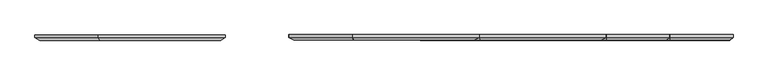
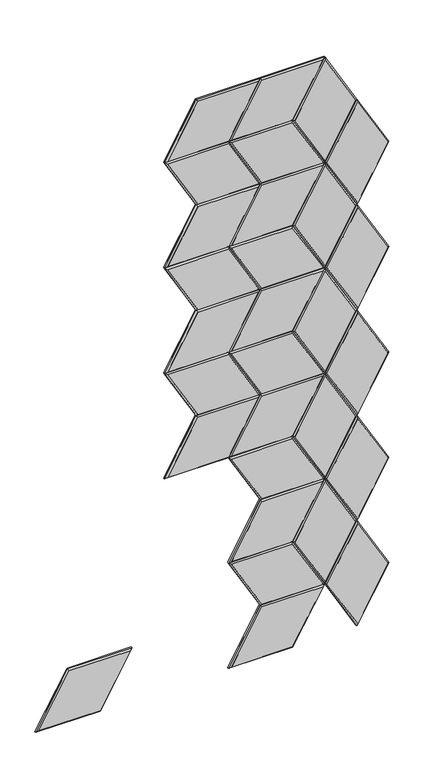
"""IFC4 building model written with IfcOpenShell, lengths in millimetres: proxy geometry, Wall_Cissu 9.3dm."""

from ifc_helpers import new_model, si_unit, origin, place, context, project, spatial, faceted_brep, source, transform, mapped, element, save


def generic_models_f78b7b72(model_context):
    return source(origin(), model_context, "Body", "Brep", [
        faceted_brep([(14916.0518258, 6.0, 1106.2275153), (14636.6518258, 6.0, 1106.2275153), (14776.3518258, 6.0, 1348.1950131), (15055.7518258, 6.0, 1348.1950131), (14916.0518258, 0.0, 1106.2275153), (14636.6518258, 0.0, 1106.2275153), (14776.3518258, 0.0, 1348.1950131), (15055.7518258, 0.0, 1348.1950131), (14779.8159274, -6.0, 1342.1950131), (14647.0441307, -6.0, 1112.2275153), (14912.5877242, -6.0, 1112.2275153), (15045.359521, -6.0, 1342.1950131)], [[[0, 1, 2, 3]], [[4, 5, 1, 0]], [[5, 6, 2, 1]], [[6, 7, 3, 2]], [[7, 4, 0, 3]], [[8, 9, 10, 11]], [[4, 10, 9, 5]], [[5, 9, 8, 6]], [[6, 8, 11, 7]], [[7, 11, 10, 4]]]),
        faceted_brep([(14916.0518258, 6.0, 2074.0975065), (15055.7518258, 6.0, 1832.1300087), (14776.3518258, 6.0, 1832.1300087), (14636.6518258, 6.0, 2074.0975065), (14916.0518258, 0.0, 2074.0975065), (14636.6518258, 0.0, 2074.0975065), (14776.3518258, 0.0, 1832.1300087), (15055.7518258, 0.0, 1832.1300087), (14779.8159274, -6.0, 1838.1300087), (15045.359521, -6.0, 1838.1300087), (14912.5877242, -6.0, 2068.0975065), (14647.0441307, -6.0, 2068.0975065)], [[[0, 1, 2, 3]], [[4, 0, 3, 5]], [[5, 3, 2, 6]], [[6, 2, 1, 7]], [[7, 1, 0, 4]], [[8, 9, 10, 11]], [[4, 5, 11, 10]], [[5, 6, 8, 11]], [[6, 7, 9, 8]], [[7, 4, 10, 9]]]),
        faceted_brep([(14916.0518258, 6.0, 1590.1625109), (14636.6518258, 6.0, 1590.1625109), (14776.3518258, 6.0, 1832.1300087), (15055.7518258, 6.0, 1832.1300087), (14916.0518258, 0.0, 1590.1625109), (14636.6518258, 0.0, 1590.1625109), (14776.3518258, 0.0, 1832.1300087), (15055.7518258, 0.0, 1832.1300087), (14779.8159274, -6.0, 1826.1300087), (14647.0441307, -6.0, 1596.1625109), (14912.5877242, -6.0, 1596.1625109), (15045.359521, -6.0, 1826.1300087)], [[[0, 1, 2, 3]], [[4, 5, 1, 0]], [[5, 6, 2, 1]], [[6, 7, 3, 2]], [[7, 4, 0, 3]], [[8, 9, 10, 11]], [[4, 10, 9, 5]], [[5, 9, 8, 6]], [[6, 8, 11, 7]], [[7, 11, 10, 4]]]),
        faceted_brep([(14916.0518258, 6.0, 2558.0325022), (15055.7518258, 6.0, 2316.0650044), (14776.3518258, 6.0, 2316.0650044), (14636.6518258, 6.0, 2558.0325022), (14916.0518258, 0.0, 2558.0325022), (14636.6518258, 0.0, 2558.0325022), (14776.3518258, 0.0, 2316.0650044), (15055.7518258, 0.0, 2316.0650044), (14779.8159274, -6.0, 2322.0650044), (15045.359521, -6.0, 2322.0650044), (14912.5877242, -6.0, 2552.0325022), (14647.0441307, -6.0, 2552.0325022)], [[[0, 1, 2, 3]], [[4, 0, 3, 5]], [[5, 3, 2, 6]], [[6, 2, 1, 7]], [[7, 1, 0, 4]], [[8, 9, 10, 11]], [[4, 5, 11, 10]], [[5, 6, 8, 11]], [[6, 7, 9, 8]], [[7, 4, 10, 9]]]),
        faceted_brep([(14916.0518258, 6.0, 2074.0975065), (14636.6518258, 6.0, 2074.0975065), (14776.3518258, 6.0, 2316.0650044), (15055.7518258, 6.0, 2316.0650044), (14916.0518258, 0.0, 2074.0975065), (14636.6518258, 0.0, 2074.0975065), (14776.3518258, 0.0, 2316.0650044), (15055.7518258, 0.0, 2316.0650044), (14779.8159274, -6.0, 2310.0650044), (14647.0441307, -6.0, 2080.0975065), (14912.5877242, -6.0, 2080.0975065), (15045.359521, -6.0, 2310.0650044)], [[[0, 1, 2, 3]], [[4, 5, 1, 0]], [[5, 6, 2, 1]], [[6, 7, 3, 2]], [[7, 4, 0, 3]], [[8, 9, 10, 11]], [[4, 10, 9, 5]], [[5, 9, 8, 6]], [[6, 8, 11, 7]], [[7, 11, 10, 4]]]),
        faceted_brep([(14776.3518258, 6.0, 1348.1950131), (14636.6518258, 6.0, 1590.1625109), (14916.0518258, 6.0, 1590.1625109), (15055.7518258, 6.0, 1348.1950131), (14776.3518258, 0.0, 1348.1950131), (15055.7518258, 0.0, 1348.1950131), (14916.0518258, 0.0, 1590.1625109), (14636.6518258, 0.0, 1590.1625109), (14912.5877242, -6.0, 1584.1625109), (14647.0441307, -6.0, 1584.1625109), (14779.8159274, -6.0, 1354.1950131), (15045.359521, -6.0, 1354.1950131)], [[[0, 1, 2, 3]], [[4, 0, 3, 5]], [[5, 3, 2, 6]], [[6, 2, 1, 7]], [[7, 1, 0, 4]], [[8, 9, 10, 11]], [[4, 5, 11, 10]], [[5, 6, 8, 11]], [[6, 7, 9, 8]], [[7, 4, 10, 9]]]),
        faceted_brep([(14217.5518258, 6.0, 380.3250218), (14496.9518258, 6.0, 380.3250218), (14357.2518258, 6.0, 138.357524), (14077.8518258, 6.0, 138.357524), (14217.5518258, 0.0, 380.3250218), (14496.9518258, 0.0, 380.3250218), (14357.2518258, 0.0, 138.357524), (14077.8518258, 0.0, 138.357524), (14353.7877242, -6.0, 144.357524), (14486.559521, -6.0, 374.3250218), (14221.0159274, -6.0, 374.3250218), (14088.2441307, -6.0, 144.357524)], [[[0, 1, 2, 3]], [[4, 5, 1, 0]], [[5, 6, 2, 1]], [[6, 7, 3, 2]], [[7, 4, 0, 3]], [[8, 9, 10, 11]], [[4, 10, 9, 5]], [[5, 9, 8, 6]], [[6, 8, 11, 7]], [[7, 11, 10, 4]]]),
        faceted_brep([(14916.0518258, 6.0, 2558.0325022), (14636.6518258, 6.0, 2558.0325022), (14776.3518258, 6.0, 2800.0), (15055.7518258, 6.0, 2800.0), (14916.0518258, 0.0, 2558.0325022), (14636.6518258, 0.0, 2558.0325022), (14776.3518258, 0.0, 2800.0), (15055.7518258, 0.0, 2800.0), (14779.8159274, -6.0, 2794.0), (14647.0441307, -6.0, 2564.0325022), (14912.5877242, -6.0, 2564.0325022), (15045.359521, -6.0, 2794.0)], [[[0, 1, 2, 3]], [[4, 5, 1, 0]], [[5, 6, 2, 1]], [[6, 7, 3, 2]], [[7, 4, 0, 3]], [[8, 9, 10, 11]], [[4, 10, 9, 5]], [[5, 9, 8, 6]], [[6, 8, 11, 7]], [[7, 11, 10, 4]]]),
        faceted_brep([(15195.4518258, 6.0, 2558.0325022), (15335.1518258, 6.0, 2800.0), (15474.8518258, 6.0, 2558.0325022), (15335.1518258, 6.0, 2316.0650044), (15195.4518258, 0.0, 2558.0325022), (15335.1518258, 0.0, 2800.0), (15474.8518258, 0.0, 2558.0325022), (15335.1518258, 0.0, 2316.0650044), (15467.9236226, -6.0, 2558.0325022), (15335.1518258, -6.0, 2788.0), (15202.380029, -6.0, 2558.0325022), (15335.1518258, -6.0, 2328.0650044)], [[[0, 1, 2, 3]], [[4, 5, 1, 0]], [[5, 6, 2, 1]], [[6, 7, 3, 2]], [[7, 4, 0, 3]], [[8, 9, 10, 11]], [[4, 10, 9, 5]], [[5, 9, 8, 6]], [[6, 8, 11, 7]], [[7, 11, 10, 4]]]),
        faceted_brep([(15195.4518258, 6.0, 2074.0975065), (15335.1518258, 6.0, 2316.0650044), (15474.8518258, 6.0, 2074.0975065), (15335.1518258, 6.0, 1832.1300087), (15195.4518258, 0.0, 2074.0975065), (15335.1518258, 0.0, 2316.0650044), (15474.8518258, 0.0, 2074.0975065), (15335.1518258, 0.0, 1832.1300087), (15467.9236226, -6.0, 2074.0975065), (15335.1518258, -6.0, 2304.0650044), (15202.380029, -6.0, 2074.0975065), (15335.1518258, -6.0, 1844.1300087)], [[[0, 1, 2, 3]], [[4, 5, 1, 0]], [[5, 6, 2, 1]], [[6, 7, 3, 2]], [[7, 4, 0, 3]], [[8, 9, 10, 11]], [[4, 10, 9, 5]], [[5, 9, 8, 6]], [[6, 8, 11, 7]], [[7, 11, 10, 4]]]),
        faceted_brep([(15195.4518258, 6.0, 1590.1625109), (15335.1518258, 6.0, 1832.1300087), (15474.8518258, 6.0, 1590.1625109), (15335.1518258, 6.0, 1348.1950131), (15195.4518258, 0.0, 1590.1625109), (15335.1518258, 0.0, 1832.1300087), (15474.8518258, 0.0, 1590.1625109), (15335.1518258, 0.0, 1348.1950131), (15467.9236226, -6.0, 1590.1625109), (15335.1518258, -6.0, 1820.1300087), (15202.380029, -6.0, 1590.1625109), (15335.1518258, -6.0, 1360.1950131)], [[[0, 1, 2, 3]], [[4, 5, 1, 0]], [[5, 6, 2, 1]], [[6, 7, 3, 2]], [[7, 4, 0, 3]], [[8, 9, 10, 11]], [[4, 10, 9, 5]], [[5, 9, 8, 6]], [[6, 8, 11, 7]], [[7, 11, 10, 4]]]),
        faceted_brep([(15195.4518258, 6.0, 1106.2275153), (15335.1518258, 6.0, 1348.1950131), (15474.8518258, 6.0, 1106.2275153), (15335.1518258, 6.0, 864.2600175), (15195.4518258, 0.0, 1106.2275153), (15335.1518258, 0.0, 1348.1950131), (15474.8518258, 0.0, 1106.2275153), (15335.1518258, 0.0, 864.2600175), (15467.9236226, -6.0, 1106.2275153), (15335.1518258, -6.0, 1336.1950131), (15202.380029, -6.0, 1106.2275153), (15335.1518258, -6.0, 876.2600175)], [[[0, 1, 2, 3]], [[4, 5, 1, 0]], [[5, 6, 2, 1]], [[6, 7, 3, 2]], [[7, 4, 0, 3]], [[8, 9, 10, 11]], [[4, 10, 9, 5]], [[5, 9, 8, 6]], [[6, 8, 11, 7]], [[7, 11, 10, 4]]]),
        faceted_brep([(15195.4518258, 6.0, 622.2925196), (15335.1518258, 6.0, 864.2600175), (15474.8518258, 6.0, 622.2925196), (15335.1518258, 6.0, 380.3250218), (15195.4518258, 0.0, 622.2925196), (15335.1518258, 0.0, 864.2600175), (15474.8518258, 0.0, 622.2925196), (15335.1518258, 0.0, 380.3250218), (15467.9236226, -6.0, 622.2925196), (15335.1518258, -6.0, 852.2600175), (15202.380029, -6.0, 622.2925196), (15335.1518258, -6.0, 392.3250218)], [[[0, 1, 2, 3]], [[4, 5, 1, 0]], [[5, 6, 2, 1]], [[6, 7, 3, 2]], [[7, 4, 0, 3]], [[8, 9, 10, 11]], [[4, 10, 9, 5]], [[5, 9, 8, 6]], [[6, 8, 11, 7]], [[7, 11, 10, 4]]]),
        faceted_brep([(15055.7518258, 6.0, 864.2600175), (15335.1518258, 6.0, 864.2600175), (15195.4518258, 6.0, 622.2925196), (14916.0518258, 6.0, 622.2925196), (15055.7518258, 0.0, 864.2600175), (15335.1518258, 0.0, 864.2600175), (15195.4518258, 0.0, 622.2925196), (14916.0518258, 0.0, 622.2925196), (15191.9877242, -6.0, 628.2925196), (15324.759521, -6.0, 858.2600175), (15059.2159274, -6.0, 858.2600175), (14926.4441307, -6.0, 628.2925196)], [[[0, 1, 2, 3]], [[4, 5, 1, 0]], [[5, 6, 2, 1]], [[6, 7, 3, 2]], [[7, 4, 0, 3]], [[8, 9, 10, 11]], [[4, 10, 9, 5]], [[5, 9, 8, 6]], [[6, 8, 11, 7]], [[7, 11, 10, 4]]]),
        faceted_brep([(15055.7518258, 6.0, 380.3250218), (14916.0518258, 6.0, 622.2925196), (15195.4518258, 6.0, 622.2925196), (15335.1518258, 6.0, 380.3250218), (15055.7518258, 0.0, 380.3250218), (15335.1518258, 0.0, 380.3250218), (15195.4518258, 0.0, 622.2925196), (14916.0518258, 0.0, 622.2925196), (15191.9877242, -6.0, 616.2925196), (14926.4441307, -6.0, 616.2925196), (15059.2159274, -6.0, 386.3250218), (15324.759521, -6.0, 386.3250218)], [[[0, 1, 2, 3]], [[4, 0, 3, 5]], [[5, 3, 2, 6]], [[6, 2, 1, 7]], [[7, 1, 0, 4]], [[8, 9, 10, 11]], [[4, 5, 11, 10]], [[5, 6, 8, 11]], [[6, 7, 9, 8]], [[7, 4, 10, 9]]]),
        faceted_brep([(15055.7518258, 6.0, 1348.1950131), (15335.1518258, 6.0, 1348.1950131), (15195.4518258, 6.0, 1106.2275153), (14916.0518258, 6.0, 1106.2275153), (15055.7518258, 0.0, 1348.1950131), (15335.1518258, 0.0, 1348.1950131), (15195.4518258, 0.0, 1106.2275153), (14916.0518258, 0.0, 1106.2275153), (15191.9877242, -6.0, 1112.2275153), (15324.759521, -6.0, 1342.1950131), (15059.2159274, -6.0, 1342.1950131), (14926.4441307, -6.0, 1112.2275153)], [[[0, 1, 2, 3]], [[4, 5, 1, 0]], [[5, 6, 2, 1]], [[6, 7, 3, 2]], [[7, 4, 0, 3]], [[8, 9, 10, 11]], [[4, 10, 9, 5]], [[5, 9, 8, 6]], [[6, 8, 11, 7]], [[7, 11, 10, 4]]]),
        faceted_brep([(15055.7518258, 6.0, 864.2600175), (14916.0518258, 6.0, 1106.2275153), (15195.4518258, 6.0, 1106.2275153), (15335.1518258, 6.0, 864.2600175), (15055.7518258, 0.0, 864.2600175), (15335.1518258, 0.0, 864.2600175), (15195.4518258, 0.0, 1106.2275153), (14916.0518258, 0.0, 1106.2275153), (15191.9877242, -6.0, 1100.2275153), (14926.4441307, -6.0, 1100.2275153), (15059.2159274, -6.0, 870.2600175), (15324.759521, -6.0, 870.2600175)], [[[0, 1, 2, 3]], [[4, 0, 3, 5]], [[5, 3, 2, 6]], [[6, 2, 1, 7]], [[7, 1, 0, 4]], [[8, 9, 10, 11]], [[4, 5, 11, 10]], [[5, 6, 8, 11]], [[6, 7, 9, 8]], [[7, 4, 10, 9]]]),
        faceted_brep([(15055.7518258, 6.0, 1832.1300087), (15335.1518258, 6.0, 1832.1300087), (15195.4518258, 6.0, 1590.1625109), (14916.0518258, 6.0, 1590.1625109), (15055.7518258, 0.0, 1832.1300087), (15335.1518258, 0.0, 1832.1300087), (15195.4518258, 0.0, 1590.1625109), (14916.0518258, 0.0, 1590.1625109), (15191.9877242, -6.0, 1596.1625109), (15324.759521, -6.0, 1826.1300087), (15059.2159274, -6.0, 1826.1300087), (14926.4441307, -6.0, 1596.1625109)], [[[0, 1, 2, 3]], [[4, 5, 1, 0]], [[5, 6, 2, 1]], [[6, 7, 3, 2]], [[7, 4, 0, 3]], [[8, 9, 10, 11]], [[4, 10, 9, 5]], [[5, 9, 8, 6]], [[6, 8, 11, 7]], [[7, 11, 10, 4]]]),
        faceted_brep([(15055.7518258, 6.0, 1348.1950131), (14916.0518258, 6.0, 1590.1625109), (15195.4518258, 6.0, 1590.1625109), (15335.1518258, 6.0, 1348.1950131), (15055.7518258, 0.0, 1348.1950131), (15335.1518258, 0.0, 1348.1950131), (15195.4518258, 0.0, 1590.1625109), (14916.0518258, 0.0, 1590.1625109), (15191.9877242, -6.0, 1584.1625109), (14926.4441307, -6.0, 1584.1625109), (15059.2159274, -6.0, 1354.1950131), (15324.759521, -6.0, 1354.1950131)], [[[0, 1, 2, 3]], [[4, 0, 3, 5]], [[5, 3, 2, 6]], [[6, 2, 1, 7]], [[7, 1, 0, 4]], [[8, 9, 10, 11]], [[4, 5, 11, 10]], [[5, 6, 8, 11]], [[6, 7, 9, 8]], [[7, 4, 10, 9]]]),
        faceted_brep([(15055.7518258, 6.0, 2316.0650044), (15335.1518258, 6.0, 2316.0650044), (15195.4518258, 6.0, 2074.0975065), (14916.0518258, 6.0, 2074.0975065), (15055.7518258, 0.0, 2316.0650044), (15335.1518258, 0.0, 2316.0650044), (15195.4518258, 0.0, 2074.0975065), (14916.0518258, 0.0, 2074.0975065), (15191.9877242, -6.0, 2080.0975065), (15324.759521, -6.0, 2310.0650044), (15059.2159274, -6.0, 2310.0650044), (14926.4441307, -6.0, 2080.0975065)], [[[0, 1, 2, 3]], [[4, 5, 1, 0]], [[5, 6, 2, 1]], [[6, 7, 3, 2]], [[7, 4, 0, 3]], [[8, 9, 10, 11]], [[4, 10, 9, 5]], [[5, 9, 8, 6]], [[6, 8, 11, 7]], [[7, 11, 10, 4]]]),
        faceted_brep([(15055.7518258, 6.0, 2800.0), (15335.1518258, 6.0, 2800.0), (15195.4518258, 6.0, 2558.0325022), (14916.0518258, 6.0, 2558.0325022), (15055.7518258, 0.0, 2800.0), (15335.1518258, 0.0, 2800.0), (15195.4518258, 0.0, 2558.0325022), (14916.0518258, 0.0, 2558.0325022), (15191.9877242, -6.0, 2564.0325022), (15324.759521, -6.0, 2794.0), (15059.2159274, -6.0, 2794.0), (14926.4441307, -6.0, 2564.0325022)], [[[0, 1, 2, 3]], [[4, 5, 1, 0]], [[5, 6, 2, 1]], [[6, 7, 3, 2]], [[7, 4, 0, 3]], [[8, 9, 10, 11]], [[4, 10, 9, 5]], [[5, 9, 8, 6]], [[6, 8, 11, 7]], [[7, 11, 10, 4]]]),
        faceted_brep([(15055.7518258, 6.0, 2316.0650044), (14916.0518258, 6.0, 2558.0325022), (15195.4518258, 6.0, 2558.0325022), (15335.1518258, 6.0, 2316.0650044), (15055.7518258, 0.0, 2316.0650044), (15335.1518258, 0.0, 2316.0650044), (15195.4518258, 0.0, 2558.0325022), (14916.0518258, 0.0, 2558.0325022), (15191.9877242, -6.0, 2552.0325022), (14926.4441307, -6.0, 2552.0325022), (15059.2159274, -6.0, 2322.0650044), (15324.759521, -6.0, 2322.0650044)], [[[0, 1, 2, 3]], [[4, 0, 3, 5]], [[5, 3, 2, 6]], [[6, 2, 1, 7]], [[7, 1, 0, 4]], [[8, 9, 10, 11]], [[4, 5, 11, 10]], [[5, 6, 8, 11]], [[6, 7, 9, 8]], [[7, 4, 10, 9]]]),
        faceted_brep([(15055.7518258, 6.0, 1832.1300087), (14916.0518258, 6.0, 2074.0975065), (15195.4518258, 6.0, 2074.0975065), (15335.1518258, 6.0, 1832.1300087), (15055.7518258, 0.0, 1832.1300087), (15335.1518258, 0.0, 1832.1300087), (15195.4518258, 0.0, 2074.0975065), (14916.0518258, 0.0, 2074.0975065), (15191.9877242, -6.0, 2068.0975065), (14926.4441307, -6.0, 2068.0975065), (15059.2159274, -6.0, 1838.1300087), (15324.759521, -6.0, 1838.1300087)], [[[0, 1, 2, 3]], [[4, 0, 3, 5]], [[5, 3, 2, 6]], [[6, 2, 1, 7]], [[7, 1, 0, 4]], [[8, 9, 10, 11]], [[4, 5, 11, 10]], [[5, 6, 8, 11]], [[6, 7, 9, 8]], [[7, 4, 10, 9]]]),
        faceted_brep([(15614.5518258, 6.0, 2316.0650044), (15474.8518258, 6.0, 2074.0975065), (15335.1518258, 6.0, 2316.0650044), (15474.8518258, 6.0, 2558.0325022), (15614.5518258, 0.0, 2316.0650044), (15474.8518258, 0.0, 2074.0975065), (15335.1518258, 0.0, 2316.0650044), (15474.8518258, 0.0, 2558.0325022), (15342.080029, -6.0, 2316.0650044), (15474.8518258, -6.0, 2086.0975065), (15607.6236226, -6.0, 2316.0650044), (15474.8518258, -6.0, 2546.0325022)], [[[0, 1, 2, 3]], [[4, 5, 1, 0]], [[5, 6, 2, 1]], [[6, 7, 3, 2]], [[7, 4, 0, 3]], [[8, 9, 10, 11]], [[4, 10, 9, 5]], [[5, 9, 8, 6]], [[6, 8, 11, 7]], [[7, 11, 10, 4]]]),
        faceted_brep([(15614.5518258, 6.0, 1832.1300087), (15474.8518258, 6.0, 1590.1625109), (15335.1518258, 6.0, 1832.1300087), (15474.8518258, 6.0, 2074.0975065), (15614.5518258, 0.0, 1832.1300087), (15474.8518258, 0.0, 1590.1625109), (15335.1518258, 0.0, 1832.1300087), (15474.8518258, 0.0, 2074.0975065), (15342.080029, -6.0, 1832.1300087), (15474.8518258, -6.0, 1602.1625109), (15607.6236226, -6.0, 1832.1300087), (15474.8518258, -6.0, 2062.0975065)], [[[0, 1, 2, 3]], [[4, 5, 1, 0]], [[5, 6, 2, 1]], [[6, 7, 3, 2]], [[7, 4, 0, 3]], [[8, 9, 10, 11]], [[4, 10, 9, 5]], [[5, 9, 8, 6]], [[6, 8, 11, 7]], [[7, 11, 10, 4]]]),
        faceted_brep([(15614.5518258, 6.0, 1348.1950131), (15474.8518258, 6.0, 1106.2275153), (15335.1518258, 6.0, 1348.1950131), (15474.8518258, 6.0, 1590.1625109), (15614.5518258, 0.0, 1348.1950131), (15474.8518258, 0.0, 1106.2275153), (15335.1518258, 0.0, 1348.1950131), (15474.8518258, 0.0, 1590.1625109), (15342.080029, -6.0, 1348.1950131), (15474.8518258, -6.0, 1118.2275153), (15607.6236226, -6.0, 1348.1950131), (15474.8518258, -6.0, 1578.1625109)], [[[0, 1, 2, 3]], [[4, 5, 1, 0]], [[5, 6, 2, 1]], [[6, 7, 3, 2]], [[7, 4, 0, 3]], [[8, 9, 10, 11]], [[4, 10, 9, 5]], [[5, 9, 8, 6]], [[6, 8, 11, 7]], [[7, 11, 10, 4]]]),
        faceted_brep([(15614.5518258, 6.0, 864.2600175), (15474.8518258, 6.0, 622.2925196), (15335.1518258, 6.0, 864.2600175), (15474.8518258, 6.0, 1106.2275153), (15614.5518258, 0.0, 864.2600175), (15474.8518258, 0.0, 622.2925196), (15335.1518258, 0.0, 864.2600175), (15474.8518258, 0.0, 1106.2275153), (15342.080029, -6.0, 864.2600175), (15474.8518258, -6.0, 634.2925196), (15607.6236226, -6.0, 864.2600175), (15474.8518258, -6.0, 1094.2275153)], [[[0, 1, 2, 3]], [[4, 5, 1, 0]], [[5, 6, 2, 1]], [[6, 7, 3, 2]], [[7, 4, 0, 3]], [[8, 9, 10, 11]], [[4, 10, 9, 5]], [[5, 9, 8, 6]], [[6, 8, 11, 7]], [[7, 11, 10, 4]]]),
        faceted_brep([(15614.5518258, 6.0, 380.3250218), (15474.8518258, 6.0, 138.357524), (15335.1518258, 6.0, 380.3250218), (15474.8518258, 6.0, 622.2925196), (15614.5518258, 0.0, 380.3250218), (15474.8518258, 0.0, 138.357524), (15335.1518258, 0.0, 380.3250218), (15474.8518258, 0.0, 622.2925196), (15342.080029, -6.0, 380.3250218), (15474.8518258, -6.0, 150.357524), (15607.6236226, -6.0, 380.3250218), (15474.8518258, -6.0, 610.2925196)], [[[0, 1, 2, 3]], [[4, 5, 1, 0]], [[5, 6, 2, 1]], [[6, 7, 3, 2]], [[7, 4, 0, 3]], [[8, 9, 10, 11]], [[4, 10, 9, 5]], [[5, 9, 8, 6]], [[6, 8, 11, 7]], [[7, 11, 10, 4]]]),
        faceted_brep([(15055.7518258, 6.0, 380.3250218), (15335.1518258, 6.0, 380.3250218), (15195.4518258, 6.0, 138.357524), (14916.0518258, 6.0, 138.357524), (15055.7518258, 0.0, 380.3250218), (15335.1518258, 0.0, 380.3250218), (15195.4518258, 0.0, 138.357524), (14916.0518258, 0.0, 138.357524), (15191.9877242, -6.0, 144.357524), (15324.759521, -6.0, 374.3250218), (15059.2159274, -6.0, 374.3250218), (14926.4441307, -6.0, 144.357524)], [[[0, 1, 2, 3]], [[4, 5, 1, 0]], [[5, 6, 2, 1]], [[6, 7, 3, 2]], [[7, 4, 0, 3]], [[8, 9, 10, 11]], [[4, 10, 9, 5]], [[5, 9, 8, 6]], [[6, 8, 11, 7]], [[7, 11, 10, 4]]]),
    ])


if __name__ == "__main__":
    model = new_model("IFC4")
    model_context = context("Model", 3, world=origin())
    ifc_project = project(units=[si_unit("LENGTHUNIT", "METRE", prefix="MILLI")], contexts=[model_context])
    site = spatial("IfcSite", under=ifc_project)
    building = spatial("IfcBuilding", under=site)
    placement = place(None, origin())
    generic_models_shape = generic_models_f78b7b72(model_context)
    element("IfcBuildingElementProxy", 1, Name="Wall_Cissu 9.3dm", ObjectType="Wall_Cissu 9.3dm", at=placement, inside=building, context=model_context, shape_type="MappedRepresentation", body=[
        mapped(generic_models_shape, transform((0.0, 0.0, 0.0), x_axis=(1.0, 0.0, 0.0), y_axis=(0.0, 1.0, 0.0), z_axis=(0.0, 0.0, 1.0))),
    ])
    save(model, "model.ifc")
